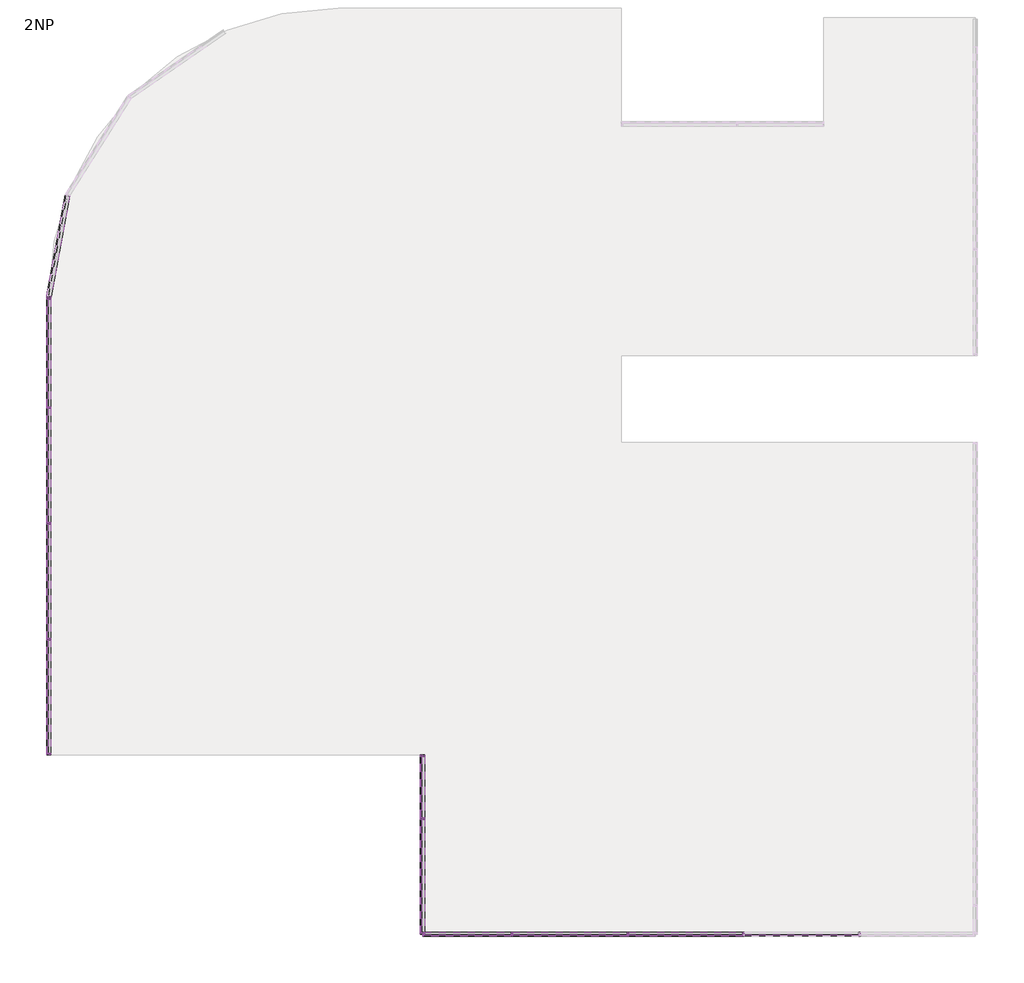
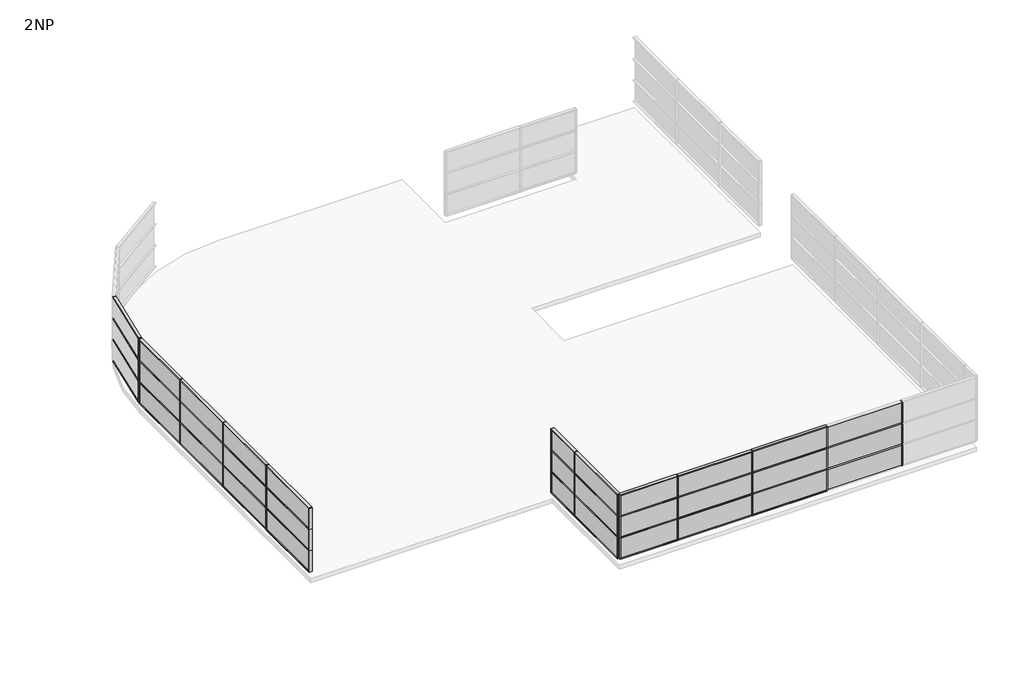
# One storey, part 1 of 3: 82 members, 30 plates.
"""IFC4 building model written with IfcOpenShell, lengths in millimetres."""

from ifc_helpers import new_model, si_unit, origin, place, context, project, spatial, transform, mapped, element, save
from components import rectangular_mullion_50_x_150mm_d99dc9be, rectangular_mullion_50_x_150mm_6588f46c, rectangular_mullion_50_x_150mm_a037c29c, rectangular_mullion_50_x_150mm_c2546fd4, rectangular_mullion_50_x_150mm_cd873b1a, rectangular_mullion_50_x_150mm_642c3999, rectangular_mullion_50_x_150mm_d9fe8572, rectangular_mullion_50_x_150mm_f56f8a9a, system_panel_glazed_8e9402eb, system_panel_glazed_89ac83a7, system_panel_glazed_2dc425e2, system_panel_glazed_da5fadb4, system_panel_glazed_3a708ec0

model = new_model("IFC4")

# Units and contexts
model_context = context("Model", 3, world=origin())
ifc_project = project(units=[si_unit("LENGTHUNIT", "METRE", prefix="MILLI")], contexts=[model_context])

# Site, building, storey
site = spatial("IfcSite", under=ifc_project)
building = spatial("IfcBuilding", under=site)
storey = spatial("IfcBuildingStorey", under=building, Name="2NP", Elevation=8000.0)

# Members
placement = place(None, origin())
rectangular_mullion_50_x_150mm_shape = rectangular_mullion_50_x_150mm_d99dc9be(model_context)
element("IfcMember", 1, ObjectType="Rectangular Mullion : 50 x 150mm", at=placement, inside=storey, context=model_context, shape_type="MappedRepresentation", body=[
    mapped(rectangular_mullion_50_x_150mm_shape, transform((9503.2660975, -23624.0160434, 9600.0), x_axis=(-1.0, 0.0, 0.0), y_axis=(0.0, -1.0, 0.0), z_axis=(0.0, 0.0, 1.0))),
])
element("IfcMember", 2, ObjectType="Rectangular Mullion : 50 x 150mm", at=placement, inside=storey, context=model_context, shape_type="MappedRepresentation", body=[
    mapped(rectangular_mullion_50_x_150mm_shape, transform((9503.2660975, -23624.0160434, 10800.0), x_axis=(-1.0, 0.0, 0.0), y_axis=(0.0, -1.0, 0.0), z_axis=(0.0, 0.0, 1.0))),
])
element("IfcMember", 3, ObjectType="Rectangular Mullion : 50 x 150mm", at=placement, inside=storey, context=model_context, shape_type="MappedRepresentation", body=[
    mapped(rectangular_mullion_50_x_150mm_shape, transform((9503.2660975, -23624.0160434, 12000.0), x_axis=(-1.0, 0.0, 0.0), y_axis=(0.0, -1.0, 0.0), z_axis=(0.0, 0.0, 1.0))),
])
element("IfcMember", 4, ObjectType="Rectangular Mullion : 50 x 150mm", at=placement, inside=storey, context=model_context, shape_type="MappedRepresentation", body=[
    mapped(rectangular_mullion_50_x_150mm_shape, transform((5503.2660975, -23624.0160434, 9600.0), x_axis=(-1.0, 0.0, 0.0), y_axis=(0.0, -1.0, 0.0), z_axis=(0.0, 0.0, 1.0))),
])
element("IfcMember", 5, ObjectType="Rectangular Mullion : 50 x 150mm", at=placement, inside=storey, context=model_context, shape_type="MappedRepresentation", body=[
    mapped(rectangular_mullion_50_x_150mm_shape, transform((5503.2660975, -23624.0160434, 10800.0), x_axis=(-1.0, 0.0, 0.0), y_axis=(0.0, -1.0, 0.0), z_axis=(0.0, 0.0, 1.0))),
])
element("IfcMember", 6, ObjectType="Rectangular Mullion : 50 x 150mm", at=placement, inside=storey, context=model_context, shape_type="MappedRepresentation", body=[
    mapped(rectangular_mullion_50_x_150mm_shape, transform((5503.2660975, -23624.0160434, 12000.0), x_axis=(-1.0, 0.0, 0.0), y_axis=(0.0, -1.0, 0.0), z_axis=(0.0, 0.0, 1.0))),
])
element("IfcMember", 7, ObjectType="Rectangular Mullion : 50 x 150mm", at=placement, inside=storey, context=model_context, shape_type="MappedRepresentation", body=[
    mapped(rectangular_mullion_50_x_150mm_shape, transform((1503.2660975, -23624.0160434, 9600.0), x_axis=(-1.0, 0.0, 0.0), y_axis=(0.0, -1.0, 0.0), z_axis=(0.0, 0.0, 1.0))),
])
element("IfcMember", 8, ObjectType="Rectangular Mullion : 50 x 150mm", at=placement, inside=storey, context=model_context, shape_type="MappedRepresentation", body=[
    mapped(rectangular_mullion_50_x_150mm_shape, transform((1503.2660975, -23624.0160434, 10800.0), x_axis=(-1.0, 0.0, 0.0), y_axis=(0.0, -1.0, 0.0), z_axis=(0.0, 0.0, 1.0))),
])
element("IfcMember", 9, ObjectType="Rectangular Mullion : 50 x 150mm", at=placement, inside=storey, context=model_context, shape_type="MappedRepresentation", body=[
    mapped(rectangular_mullion_50_x_150mm_shape, transform((1503.2660975, -23624.0160434, 12000.0), x_axis=(-1.0, 0.0, 0.0), y_axis=(0.0, -1.0, 0.0), z_axis=(0.0, 0.0, 1.0))),
])
element("IfcMember", 10, ObjectType="Rectangular Mullion : 50 x 150mm", at=placement, inside=storey, context=model_context, shape_type="MappedRepresentation", body=[
    mapped(rectangular_mullion_50_x_150mm_shape, transform((-2496.7339025, -23624.0160434, 9600.0), x_axis=(-1.0, 0.0, 0.0), y_axis=(0.0, -1.0, 0.0), z_axis=(0.0, 0.0, 1.0))),
])
element("IfcMember", 11, ObjectType="Rectangular Mullion : 50 x 150mm", at=placement, inside=storey, context=model_context, shape_type="MappedRepresentation", body=[
    mapped(rectangular_mullion_50_x_150mm_shape, transform((-2496.7339025, -23624.0160434, 10800.0), x_axis=(-1.0, 0.0, 0.0), y_axis=(0.0, -1.0, 0.0), z_axis=(0.0, 0.0, 1.0))),
])
element("IfcMember", 12, ObjectType="Rectangular Mullion : 50 x 150mm", at=placement, inside=storey, context=model_context, shape_type="MappedRepresentation", body=[
    mapped(rectangular_mullion_50_x_150mm_shape, transform((-2496.7339025, -23624.0160434, 12000.0), x_axis=(-1.0, 0.0, 0.0), y_axis=(0.0, -1.0, 0.0), z_axis=(0.0, 0.0, 1.0))),
])
element("IfcMember", 13, ObjectType="Rectangular Mullion : 50 x 150mm", at=placement, inside=storey, context=model_context, shape_type="MappedRepresentation", body=[
    mapped(rectangular_mullion_50_x_150mm_shape, transform((-5587.173406, -19624.0160434, 9600.0), x_axis=(0.0, 1.0, 0.0), y_axis=(-1.0, 0.0, 0.0), z_axis=(0.0, 0.0, 1.0))),
])
element("IfcMember", 14, ObjectType="Rectangular Mullion : 50 x 150mm", at=placement, inside=storey, context=model_context, shape_type="MappedRepresentation", body=[
    mapped(rectangular_mullion_50_x_150mm_shape, transform((-5587.173406, -19624.0160434, 10800.0), x_axis=(0.0, 1.0, 0.0), y_axis=(-1.0, 0.0, 0.0), z_axis=(0.0, 0.0, 1.0))),
])
element("IfcMember", 15, ObjectType="Rectangular Mullion : 50 x 150mm", at=placement, inside=storey, context=model_context, shape_type="MappedRepresentation", body=[
    mapped(rectangular_mullion_50_x_150mm_shape, transform((-5587.173406, -19624.0160434, 12000.0), x_axis=(0.0, 1.0, 0.0), y_axis=(-1.0, 0.0, 0.0), z_axis=(0.0, 0.0, 1.0))),
])
element("IfcMember", 16, ObjectType="Rectangular Mullion : 50 x 150mm", at=placement, inside=storey, context=model_context, shape_type="MappedRepresentation", body=[
    mapped(rectangular_mullion_50_x_150mm_shape, transform((-18496.7339025, -13423.5291324, 9600.0), x_axis=(0.0, 1.0, 0.0), y_axis=(-1.0, 0.0, 0.0), z_axis=(0.0, 0.0, 1.0))),
])
element("IfcMember", 17, ObjectType="Rectangular Mullion : 50 x 150mm", at=placement, inside=storey, context=model_context, shape_type="MappedRepresentation", body=[
    mapped(rectangular_mullion_50_x_150mm_shape, transform((-18496.7339025, -13423.5291324, 10800.0), x_axis=(0.0, 1.0, 0.0), y_axis=(-1.0, 0.0, 0.0), z_axis=(0.0, 0.0, 1.0))),
])
element("IfcMember", 18, ObjectType="Rectangular Mullion : 50 x 150mm", at=placement, inside=storey, context=model_context, shape_type="MappedRepresentation", body=[
    mapped(rectangular_mullion_50_x_150mm_shape, transform((-18496.7339025, -13423.5291324, 12000.0), x_axis=(0.0, 1.0, 0.0), y_axis=(-1.0, 0.0, 0.0), z_axis=(0.0, 0.0, 1.0))),
])
element("IfcMember", 19, ObjectType="Rectangular Mullion : 50 x 150mm", at=placement, inside=storey, context=model_context, shape_type="MappedRepresentation", body=[
    mapped(rectangular_mullion_50_x_150mm_shape, transform((-18496.7339025, -9423.5291324, 9600.0), x_axis=(0.0, 1.0, 0.0), y_axis=(-1.0, 0.0, 0.0), z_axis=(0.0, 0.0, 1.0))),
])
element("IfcMember", 20, ObjectType="Rectangular Mullion : 50 x 150mm", at=placement, inside=storey, context=model_context, shape_type="MappedRepresentation", body=[
    mapped(rectangular_mullion_50_x_150mm_shape, transform((-18496.7339025, -9423.5291324, 10800.0), x_axis=(0.0, 1.0, 0.0), y_axis=(-1.0, 0.0, 0.0), z_axis=(0.0, 0.0, 1.0))),
])
element("IfcMember", 21, ObjectType="Rectangular Mullion : 50 x 150mm", at=placement, inside=storey, context=model_context, shape_type="MappedRepresentation", body=[
    mapped(rectangular_mullion_50_x_150mm_shape, transform((-18496.7339025, -9423.5291324, 12000.0), x_axis=(0.0, 1.0, 0.0), y_axis=(-1.0, 0.0, 0.0), z_axis=(0.0, 0.0, 1.0))),
])
element("IfcMember", 22, ObjectType="Rectangular Mullion : 50 x 150mm", at=placement, inside=storey, context=model_context, shape_type="MappedRepresentation", body=[
    mapped(rectangular_mullion_50_x_150mm_shape, transform((-18496.7339025, -5423.5291324, 9600.0), x_axis=(0.0, 1.0, 0.0), y_axis=(-1.0, 0.0, 0.0), z_axis=(0.0, 0.0, 1.0))),
])
element("IfcMember", 23, ObjectType="Rectangular Mullion : 50 x 150mm", at=placement, inside=storey, context=model_context, shape_type="MappedRepresentation", body=[
    mapped(rectangular_mullion_50_x_150mm_shape, transform((-18496.7339025, -5423.5291324, 10800.0), x_axis=(0.0, 1.0, 0.0), y_axis=(-1.0, 0.0, 0.0), z_axis=(0.0, 0.0, 1.0))),
])
element("IfcMember", 24, ObjectType="Rectangular Mullion : 50 x 150mm", at=placement, inside=storey, context=model_context, shape_type="MappedRepresentation", body=[
    mapped(rectangular_mullion_50_x_150mm_shape, transform((-18496.7339025, -5423.5291324, 12000.0), x_axis=(0.0, 1.0, 0.0), y_axis=(-1.0, 0.0, 0.0), z_axis=(0.0, 0.0, 1.0))),
])
rectangular_mullion_50_x_150mm_2_shape = rectangular_mullion_50_x_150mm_6588f46c(model_context)
element("IfcMember", 25, ObjectType="Rectangular Mullion : 50 x 150mm", at=placement, inside=storey, context=model_context, shape_type="MappedRepresentation", body=[
    mapped(rectangular_mullion_50_x_150mm_2_shape, transform((-5587.173406, -23624.0160434, 9600.0), x_axis=(-1.0, 0.0, 0.0), y_axis=(0.0, -1.0, 0.0), z_axis=(0.0, 0.0, 1.0))),
])
element("IfcMember", 26, ObjectType="Rectangular Mullion : 50 x 150mm", at=placement, inside=storey, context=model_context, shape_type="MappedRepresentation", body=[
    mapped(rectangular_mullion_50_x_150mm_2_shape, transform((-5587.173406, -23624.0160434, 10800.0), x_axis=(-1.0, 0.0, 0.0), y_axis=(0.0, -1.0, 0.0), z_axis=(0.0, 0.0, 1.0))),
])
element("IfcMember", 27, ObjectType="Rectangular Mullion : 50 x 150mm", at=placement, inside=storey, context=model_context, shape_type="MappedRepresentation", body=[
    mapped(rectangular_mullion_50_x_150mm_2_shape, transform((-5587.173406, -23624.0160434, 12000.0), x_axis=(-1.0, 0.0, 0.0), y_axis=(0.0, -1.0, 0.0), z_axis=(0.0, 0.0, 1.0))),
])
element("IfcMember", 28, ObjectType="Rectangular Mullion : 50 x 150mm", at=placement, inside=storey, context=model_context, shape_type="MappedRepresentation", body=[
    mapped(rectangular_mullion_50_x_150mm_2_shape, transform((-5587.173406, -17423.5291324, 9600.0), x_axis=(0.0, 1.0, 0.0), y_axis=(-1.0, 0.0, 0.0), z_axis=(0.0, 0.0, 1.0))),
])
element("IfcMember", 29, ObjectType="Rectangular Mullion : 50 x 150mm", at=placement, inside=storey, context=model_context, shape_type="MappedRepresentation", body=[
    mapped(rectangular_mullion_50_x_150mm_2_shape, transform((-5587.173406, -17423.5291324, 10800.0), x_axis=(0.0, 1.0, 0.0), y_axis=(-1.0, 0.0, 0.0), z_axis=(0.0, 0.0, 1.0))),
])
element("IfcMember", 30, ObjectType="Rectangular Mullion : 50 x 150mm", at=placement, inside=storey, context=model_context, shape_type="MappedRepresentation", body=[
    mapped(rectangular_mullion_50_x_150mm_2_shape, transform((-5587.173406, -17423.5291324, 12000.0), x_axis=(0.0, 1.0, 0.0), y_axis=(-1.0, 0.0, 0.0), z_axis=(0.0, 0.0, 1.0))),
])
element("IfcMember", 31, ObjectType="Rectangular Mullion : 50 x 150mm", at=placement, inside=storey, context=model_context, shape_type="MappedRepresentation", body=[
    mapped(rectangular_mullion_50_x_150mm_2_shape, transform((-18496.7339025, -1624.0160434, 9600.0), x_axis=(0.0, 1.0, 0.0), y_axis=(-1.0, 0.0, 0.0), z_axis=(0.0, 0.0, 1.0))),
])
element("IfcMember", 32, ObjectType="Rectangular Mullion : 50 x 150mm", at=placement, inside=storey, context=model_context, shape_type="MappedRepresentation", body=[
    mapped(rectangular_mullion_50_x_150mm_2_shape, transform((-18496.7339025, -1624.0160434, 10800.0), x_axis=(0.0, 1.0, 0.0), y_axis=(-1.0, 0.0, 0.0), z_axis=(0.0, 0.0, 1.0))),
])
element("IfcMember", 33, ObjectType="Rectangular Mullion : 50 x 150mm", at=placement, inside=storey, context=model_context, shape_type="MappedRepresentation", body=[
    mapped(rectangular_mullion_50_x_150mm_2_shape, transform((-18496.7339025, -1624.0160434, 12000.0), x_axis=(0.0, 1.0, 0.0), y_axis=(-1.0, 0.0, 0.0), z_axis=(0.0, 0.0, 1.0))),
])
rectangular_mullion_50_x_150mm_3_shape = rectangular_mullion_50_x_150mm_a037c29c(model_context)
element("IfcMember", 34, ObjectType="Rectangular Mullion : 50 x 150mm", at=placement, inside=storey, context=model_context, shape_type="MappedRepresentation", body=[
    mapped(rectangular_mullion_50_x_150mm_3_shape, transform((5478.2660975, -23624.0160434, 8400.0), x_axis=(0.0, 0.0, 1.0), y_axis=(0.0, -1.0, 0.0), z_axis=(1.0, 0.0, 0.0))),
])
element("IfcMember", 35, ObjectType="Rectangular Mullion : 50 x 150mm", at=placement, inside=storey, context=model_context, shape_type="MappedRepresentation", body=[
    mapped(rectangular_mullion_50_x_150mm_3_shape, transform((1478.2660975, -23624.0160434, 8400.0), x_axis=(0.0, 0.0, 1.0), y_axis=(0.0, -1.0, 0.0), z_axis=(1.0, 0.0, 0.0))),
])
element("IfcMember", 36, ObjectType="Rectangular Mullion : 50 x 150mm", at=placement, inside=storey, context=model_context, shape_type="MappedRepresentation", body=[
    mapped(rectangular_mullion_50_x_150mm_3_shape, transform((5478.2660975, -23624.0160434, 9600.0), x_axis=(0.0, 0.0, 1.0), y_axis=(0.0, -1.0, 0.0), z_axis=(1.0, 0.0, 0.0))),
])
element("IfcMember", 37, ObjectType="Rectangular Mullion : 50 x 150mm", at=placement, inside=storey, context=model_context, shape_type="MappedRepresentation", body=[
    mapped(rectangular_mullion_50_x_150mm_3_shape, transform((1478.2660975, -23624.0160434, 9600.0), x_axis=(0.0, 0.0, 1.0), y_axis=(0.0, -1.0, 0.0), z_axis=(1.0, 0.0, 0.0))),
])
element("IfcMember", 38, ObjectType="Rectangular Mullion : 50 x 150mm", at=placement, inside=storey, context=model_context, shape_type="MappedRepresentation", body=[
    mapped(rectangular_mullion_50_x_150mm_3_shape, transform((5478.2660975, -23624.0160434, 10800.0), x_axis=(0.0, 0.0, 1.0), y_axis=(0.0, -1.0, 0.0), z_axis=(1.0, 0.0, 0.0))),
])
element("IfcMember", 39, ObjectType="Rectangular Mullion : 50 x 150mm", at=placement, inside=storey, context=model_context, shape_type="MappedRepresentation", body=[
    mapped(rectangular_mullion_50_x_150mm_3_shape, transform((1478.2660975, -23624.0160434, 10800.0), x_axis=(0.0, 0.0, 1.0), y_axis=(0.0, -1.0, 0.0), z_axis=(1.0, 0.0, 0.0))),
])
element("IfcMember", 40, ObjectType="Rectangular Mullion : 50 x 150mm", at=placement, inside=storey, context=model_context, shape_type="MappedRepresentation", body=[
    mapped(rectangular_mullion_50_x_150mm_3_shape, transform((5478.2660975, -23624.0160434, 12000.0), x_axis=(0.0, 0.0, 1.0), y_axis=(0.0, -1.0, 0.0), z_axis=(1.0, 0.0, 0.0))),
])
element("IfcMember", 41, ObjectType="Rectangular Mullion : 50 x 150mm", at=placement, inside=storey, context=model_context, shape_type="MappedRepresentation", body=[
    mapped(rectangular_mullion_50_x_150mm_3_shape, transform((1478.2660975, -23624.0160434, 12000.0), x_axis=(0.0, 0.0, 1.0), y_axis=(0.0, -1.0, 0.0), z_axis=(1.0, 0.0, 0.0))),
])
element("IfcMember", 42, ObjectType="Rectangular Mullion : 50 x 150mm", at=placement, inside=storey, context=model_context, shape_type="MappedRepresentation", body=[
    mapped(rectangular_mullion_50_x_150mm_3_shape, transform((-18496.7339025, -13398.5291324, 8400.0), x_axis=(0.0, 0.0, 1.0), y_axis=(-1.0, 0.0, 0.0), z_axis=(0.0, -1.0, 0.0))),
])
element("IfcMember", 43, ObjectType="Rectangular Mullion : 50 x 150mm", at=placement, inside=storey, context=model_context, shape_type="MappedRepresentation", body=[
    mapped(rectangular_mullion_50_x_150mm_3_shape, transform((-18496.7339025, -9398.5291324, 8400.0), x_axis=(0.0, 0.0, 1.0), y_axis=(-1.0, 0.0, 0.0), z_axis=(0.0, -1.0, 0.0))),
])
element("IfcMember", 44, ObjectType="Rectangular Mullion : 50 x 150mm", at=placement, inside=storey, context=model_context, shape_type="MappedRepresentation", body=[
    mapped(rectangular_mullion_50_x_150mm_3_shape, transform((-18496.7339025, -13398.5291324, 9600.0), x_axis=(0.0, 0.0, 1.0), y_axis=(-1.0, 0.0, 0.0), z_axis=(0.0, -1.0, 0.0))),
])
element("IfcMember", 45, ObjectType="Rectangular Mullion : 50 x 150mm", at=placement, inside=storey, context=model_context, shape_type="MappedRepresentation", body=[
    mapped(rectangular_mullion_50_x_150mm_3_shape, transform((-18496.7339025, -9398.5291324, 9600.0), x_axis=(0.0, 0.0, 1.0), y_axis=(-1.0, 0.0, 0.0), z_axis=(0.0, -1.0, 0.0))),
])
element("IfcMember", 46, ObjectType="Rectangular Mullion : 50 x 150mm", at=placement, inside=storey, context=model_context, shape_type="MappedRepresentation", body=[
    mapped(rectangular_mullion_50_x_150mm_3_shape, transform((-18496.7339025, -13398.5291324, 10800.0), x_axis=(0.0, 0.0, 1.0), y_axis=(-1.0, 0.0, 0.0), z_axis=(0.0, -1.0, 0.0))),
])
element("IfcMember", 47, ObjectType="Rectangular Mullion : 50 x 150mm", at=placement, inside=storey, context=model_context, shape_type="MappedRepresentation", body=[
    mapped(rectangular_mullion_50_x_150mm_3_shape, transform((-18496.7339025, -9398.5291324, 10800.0), x_axis=(0.0, 0.0, 1.0), y_axis=(-1.0, 0.0, 0.0), z_axis=(0.0, -1.0, 0.0))),
])
element("IfcMember", 48, ObjectType="Rectangular Mullion : 50 x 150mm", at=placement, inside=storey, context=model_context, shape_type="MappedRepresentation", body=[
    mapped(rectangular_mullion_50_x_150mm_3_shape, transform((-18496.7339025, -13398.5291324, 12000.0), x_axis=(0.0, 0.0, 1.0), y_axis=(-1.0, 0.0, 0.0), z_axis=(0.0, -1.0, 0.0))),
])
element("IfcMember", 49, ObjectType="Rectangular Mullion : 50 x 150mm", at=placement, inside=storey, context=model_context, shape_type="MappedRepresentation", body=[
    mapped(rectangular_mullion_50_x_150mm_3_shape, transform((-18496.7339025, -9398.5291324, 12000.0), x_axis=(0.0, 0.0, 1.0), y_axis=(-1.0, 0.0, 0.0), z_axis=(0.0, -1.0, 0.0))),
])
rectangular_mullion_50_x_150mm_4_shape = rectangular_mullion_50_x_150mm_c2546fd4(model_context)
element("IfcMember", 50, ObjectType="Rectangular Mullion : 50 x 150mm", at=placement, inside=storey, context=model_context, shape_type="MappedRepresentation", body=[
    mapped(rectangular_mullion_50_x_150mm_4_shape, transform((-5587.173406, -23574.0160434, 8400.0), x_axis=(0.0, 0.0, 1.0), y_axis=(-1.0, 0.0, 0.0), z_axis=(0.0, -1.0, 0.0))),
])
element("IfcMember", 51, ObjectType="Rectangular Mullion : 50 x 150mm", at=placement, inside=storey, context=model_context, shape_type="MappedRepresentation", body=[
    mapped(rectangular_mullion_50_x_150mm_4_shape, transform((-5587.173406, -23574.0160434, 9600.0), x_axis=(0.0, 0.0, 1.0), y_axis=(-1.0, 0.0, 0.0), z_axis=(0.0, -1.0, 0.0))),
])
element("IfcMember", 52, ObjectType="Rectangular Mullion : 50 x 150mm", at=placement, inside=storey, context=model_context, shape_type="MappedRepresentation", body=[
    mapped(rectangular_mullion_50_x_150mm_4_shape, transform((-5587.173406, -23574.0160434, 10800.0), x_axis=(0.0, 0.0, 1.0), y_axis=(-1.0, 0.0, 0.0), z_axis=(0.0, -1.0, 0.0))),
])
element("IfcMember", 53, ObjectType="Rectangular Mullion : 50 x 150mm", at=placement, inside=storey, context=model_context, shape_type="MappedRepresentation", body=[
    mapped(rectangular_mullion_50_x_150mm_4_shape, transform((-5587.173406, -23574.0160434, 12000.0), x_axis=(0.0, 0.0, 1.0), y_axis=(-1.0, 0.0, 0.0), z_axis=(0.0, -1.0, 0.0))),
])
element("IfcMember", 54, ObjectType="Rectangular Mullion : 50 x 150mm", at=placement, inside=storey, context=model_context, shape_type="MappedRepresentation", body=[
    mapped(rectangular_mullion_50_x_150mm_4_shape, transform((-18496.7339025, -17373.5291324, 8400.0), x_axis=(0.0, 0.0, 1.0), y_axis=(-1.0, 0.0, 0.0), z_axis=(0.0, -1.0, 0.0))),
])
element("IfcMember", 55, ObjectType="Rectangular Mullion : 50 x 150mm", at=placement, inside=storey, context=model_context, shape_type="MappedRepresentation", body=[
    mapped(rectangular_mullion_50_x_150mm_4_shape, transform((-18496.7339025, -17373.5291324, 9600.0), x_axis=(0.0, 0.0, 1.0), y_axis=(-1.0, 0.0, 0.0), z_axis=(0.0, -1.0, 0.0))),
])
element("IfcMember", 56, ObjectType="Rectangular Mullion : 50 x 150mm", at=placement, inside=storey, context=model_context, shape_type="MappedRepresentation", body=[
    mapped(rectangular_mullion_50_x_150mm_4_shape, transform((-18496.7339025, -17373.5291324, 10800.0), x_axis=(0.0, 0.0, 1.0), y_axis=(-1.0, 0.0, 0.0), z_axis=(0.0, -1.0, 0.0))),
])
element("IfcMember", 57, ObjectType="Rectangular Mullion : 50 x 150mm", at=placement, inside=storey, context=model_context, shape_type="MappedRepresentation", body=[
    mapped(rectangular_mullion_50_x_150mm_4_shape, transform((-18496.7339025, -17373.5291324, 12000.0), x_axis=(0.0, 0.0, 1.0), y_axis=(-1.0, 0.0, 0.0), z_axis=(0.0, -1.0, 0.0))),
])
element("IfcMember", 58, ObjectType="Rectangular Mullion : 50 x 150mm", at=placement, inside=storey, context=model_context, shape_type="MappedRepresentation", body=[
    mapped(rectangular_mullion_50_x_150mm_2_shape, transform((-5587.173406, -23624.0160434, 8400.0), x_axis=(0.0, -1.0, 0.0), y_axis=(-1.0, 0.0, 0.0), z_axis=(0.0, 0.0, -1.0))),
])
element("IfcMember", 59, ObjectType="Rectangular Mullion : 50 x 150mm", at=placement, inside=storey, context=model_context, shape_type="MappedRepresentation", body=[
    mapped(rectangular_mullion_50_x_150mm_2_shape, transform((-5587.173406, -23624.0160434, 9600.0), x_axis=(0.0, -1.0, 0.0), y_axis=(-1.0, 0.0, 0.0), z_axis=(0.0, 0.0, -1.0))),
])
element("IfcMember", 60, ObjectType="Rectangular Mullion : 50 x 150mm", at=placement, inside=storey, context=model_context, shape_type="MappedRepresentation", body=[
    mapped(rectangular_mullion_50_x_150mm_2_shape, transform((-5587.173406, -23624.0160434, 10800.0), x_axis=(0.0, -1.0, 0.0), y_axis=(-1.0, 0.0, 0.0), z_axis=(0.0, 0.0, -1.0))),
])
element("IfcMember", 61, ObjectType="Rectangular Mullion : 50 x 150mm", at=placement, inside=storey, context=model_context, shape_type="MappedRepresentation", body=[
    mapped(rectangular_mullion_50_x_150mm_2_shape, transform((-18496.7339025, -1624.0160434, 8400.0), x_axis=(-0.18033241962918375, -0.9836057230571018, 0.0), y_axis=(-0.9836057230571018, 0.18033241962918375, 0.0), z_axis=(0.0, 0.0, -1.0))),
])
element("IfcMember", 62, ObjectType="Rectangular Mullion : 50 x 150mm", at=placement, inside=storey, context=model_context, shape_type="MappedRepresentation", body=[
    mapped(rectangular_mullion_50_x_150mm_2_shape, transform((-18496.7339025, -1624.0160434, 9600.0), x_axis=(-0.18033241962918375, -0.9836057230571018, 0.0), y_axis=(-0.9836057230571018, 0.18033241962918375, 0.0), z_axis=(0.0, 0.0, -1.0))),
])
element("IfcMember", 63, ObjectType="Rectangular Mullion : 50 x 150mm", at=placement, inside=storey, context=model_context, shape_type="MappedRepresentation", body=[
    mapped(rectangular_mullion_50_x_150mm_2_shape, transform((-18496.7339025, -1624.0160434, 10800.0), x_axis=(-0.18033241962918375, -0.9836057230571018, 0.0), y_axis=(-0.9836057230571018, 0.18033241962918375, 0.0), z_axis=(0.0, 0.0, -1.0))),
])
element("IfcMember", 64, ObjectType="Rectangular Mullion : 50 x 150mm", at=placement, inside=storey, context=model_context, shape_type="MappedRepresentation", body=[
    mapped(rectangular_mullion_50_x_150mm_2_shape, transform((-18496.7339025, -17423.5291324, 8400.0), x_axis=(0.0, -1.0, 0.0), y_axis=(-1.0, 0.0, 0.0), z_axis=(0.0, 0.0, -1.0))),
])
element("IfcMember", 65, ObjectType="Rectangular Mullion : 50 x 150mm", at=placement, inside=storey, context=model_context, shape_type="MappedRepresentation", body=[
    mapped(rectangular_mullion_50_x_150mm_2_shape, transform((-18496.7339025, -17423.5291324, 9600.0), x_axis=(0.0, -1.0, 0.0), y_axis=(-1.0, 0.0, 0.0), z_axis=(0.0, 0.0, -1.0))),
])
element("IfcMember", 66, ObjectType="Rectangular Mullion : 50 x 150mm", at=placement, inside=storey, context=model_context, shape_type="MappedRepresentation", body=[
    mapped(rectangular_mullion_50_x_150mm_2_shape, transform((-18496.7339025, -17423.5291324, 10800.0), x_axis=(0.0, -1.0, 0.0), y_axis=(-1.0, 0.0, 0.0), z_axis=(0.0, 0.0, -1.0))),
])
rectangular_mullion_50_x_150mm_5_shape = rectangular_mullion_50_x_150mm_cd873b1a(model_context)
element("IfcMember", 67, ObjectType="Rectangular Mullion : 50 x 150mm", at=placement, inside=storey, context=model_context, shape_type="MappedRepresentation", body=[
    mapped(rectangular_mullion_50_x_150mm_5_shape, transform((-2521.7339025, -23624.0160434, 8400.0), x_axis=(0.0, 0.0, 1.0), y_axis=(0.0, -1.0, 0.0), z_axis=(1.0, 0.0, 0.0))),
])
element("IfcMember", 68, ObjectType="Rectangular Mullion : 50 x 150mm", at=placement, inside=storey, context=model_context, shape_type="MappedRepresentation", body=[
    mapped(rectangular_mullion_50_x_150mm_5_shape, transform((-2521.7339025, -23624.0160434, 9600.0), x_axis=(0.0, 0.0, 1.0), y_axis=(0.0, -1.0, 0.0), z_axis=(1.0, 0.0, 0.0))),
])
element("IfcMember", 69, ObjectType="Rectangular Mullion : 50 x 150mm", at=placement, inside=storey, context=model_context, shape_type="MappedRepresentation", body=[
    mapped(rectangular_mullion_50_x_150mm_5_shape, transform((-2521.7339025, -23624.0160434, 10800.0), x_axis=(0.0, 0.0, 1.0), y_axis=(0.0, -1.0, 0.0), z_axis=(1.0, 0.0, 0.0))),
])
element("IfcMember", 70, ObjectType="Rectangular Mullion : 50 x 150mm", at=placement, inside=storey, context=model_context, shape_type="MappedRepresentation", body=[
    mapped(rectangular_mullion_50_x_150mm_5_shape, transform((-2521.7339025, -23624.0160434, 12000.0), x_axis=(0.0, 0.0, 1.0), y_axis=(0.0, -1.0, 0.0), z_axis=(1.0, 0.0, 0.0))),
])
rectangular_mullion_50_x_150mm_6_shape = rectangular_mullion_50_x_150mm_642c3999(model_context)
element("IfcMember", 71, ObjectType="Rectangular Mullion : 50 x 150mm", at=placement, inside=storey, context=model_context, shape_type="MappedRepresentation", body=[
    mapped(rectangular_mullion_50_x_150mm_6_shape, transform((-5587.173406, -19599.0160434, 8400.0), x_axis=(0.0, 0.0, 1.0), y_axis=(-1.0, 0.0, 0.0), z_axis=(0.0, -1.0, 0.0))),
])
element("IfcMember", 72, ObjectType="Rectangular Mullion : 50 x 150mm", at=placement, inside=storey, context=model_context, shape_type="MappedRepresentation", body=[
    mapped(rectangular_mullion_50_x_150mm_6_shape, transform((-5587.173406, -19599.0160434, 9600.0), x_axis=(0.0, 0.0, 1.0), y_axis=(-1.0, 0.0, 0.0), z_axis=(0.0, -1.0, 0.0))),
])
element("IfcMember", 73, ObjectType="Rectangular Mullion : 50 x 150mm", at=placement, inside=storey, context=model_context, shape_type="MappedRepresentation", body=[
    mapped(rectangular_mullion_50_x_150mm_6_shape, transform((-5587.173406, -19599.0160434, 10800.0), x_axis=(0.0, 0.0, 1.0), y_axis=(-1.0, 0.0, 0.0), z_axis=(0.0, -1.0, 0.0))),
])
element("IfcMember", 74, ObjectType="Rectangular Mullion : 50 x 150mm", at=placement, inside=storey, context=model_context, shape_type="MappedRepresentation", body=[
    mapped(rectangular_mullion_50_x_150mm_6_shape, transform((-5587.173406, -19599.0160434, 12000.0), x_axis=(0.0, 0.0, 1.0), y_axis=(-1.0, 0.0, 0.0), z_axis=(0.0, -1.0, 0.0))),
])
rectangular_mullion_50_x_150mm_7_shape = rectangular_mullion_50_x_150mm_d9fe8572(model_context)
element("IfcMember", 75, ObjectType="Rectangular Mullion : 50 x 150mm", at=placement, inside=storey, context=model_context, shape_type="MappedRepresentation", body=[
    mapped(rectangular_mullion_50_x_150mm_7_shape, transform((-18487.7172815, -1574.8357573, 9600.0), x_axis=(0.0, 0.0, 1.0), y_axis=(-0.9836057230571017, 0.1803324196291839, 0.0), z_axis=(-0.1803324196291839, -0.9836057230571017, 0.0))),
])
element("IfcMember", 76, ObjectType="Rectangular Mullion : 50 x 150mm", at=placement, inside=storey, context=model_context, shape_type="MappedRepresentation", body=[
    mapped(rectangular_mullion_50_x_150mm_7_shape, transform((-18487.7172815, -1574.8357573, 10800.0), x_axis=(0.0, 0.0, 1.0), y_axis=(-0.9836057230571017, 0.18033241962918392, 0.0), z_axis=(-0.18033241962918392, -0.9836057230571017, 0.0))),
])
element("IfcMember", 77, ObjectType="Rectangular Mullion : 50 x 150mm", at=placement, inside=storey, context=model_context, shape_type="MappedRepresentation", body=[
    mapped(rectangular_mullion_50_x_150mm_7_shape, transform((-18487.7172815, -1574.8357573, 8400.0), x_axis=(0.0, 0.0, 1.0), y_axis=(-0.9836057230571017, 0.1803324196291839, 0.0), z_axis=(-0.1803324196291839, -0.9836057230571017, 0.0))),
])
element("IfcMember", 78, ObjectType="Rectangular Mullion : 50 x 150mm", at=placement, inside=storey, context=model_context, shape_type="MappedRepresentation", body=[
    mapped(rectangular_mullion_50_x_150mm_7_shape, transform((-18487.7172815, -1574.8357573, 12000.0), x_axis=(0.0, 0.0, 1.0), y_axis=(-0.9836057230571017, 0.18033241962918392, 0.0), z_axis=(-0.18033241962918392, -0.9836057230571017, 0.0))),
])
rectangular_mullion_50_x_150mm_8_shape = rectangular_mullion_50_x_150mm_f56f8a9a(model_context)
element("IfcMember", 79, ObjectType="Rectangular Mullion : 50 x 150mm", at=placement, inside=storey, context=model_context, shape_type="MappedRepresentation", body=[
    mapped(rectangular_mullion_50_x_150mm_8_shape, transform((-18496.7339025, -5398.5291324, 8400.0), x_axis=(0.0, 0.0, 1.0), y_axis=(-1.0, 0.0, 0.0), z_axis=(0.0, -1.0, 0.0))),
])
element("IfcMember", 80, ObjectType="Rectangular Mullion : 50 x 150mm", at=placement, inside=storey, context=model_context, shape_type="MappedRepresentation", body=[
    mapped(rectangular_mullion_50_x_150mm_8_shape, transform((-18496.7339025, -5398.5291324, 9600.0), x_axis=(0.0, 0.0, 1.0), y_axis=(-1.0, 0.0, 0.0), z_axis=(0.0, -1.0, 0.0))),
])
element("IfcMember", 81, ObjectType="Rectangular Mullion : 50 x 150mm", at=placement, inside=storey, context=model_context, shape_type="MappedRepresentation", body=[
    mapped(rectangular_mullion_50_x_150mm_8_shape, transform((-18496.7339025, -5398.5291324, 10800.0), x_axis=(0.0, 0.0, 1.0), y_axis=(-1.0, 0.0, 0.0), z_axis=(0.0, -1.0, 0.0))),
])
element("IfcMember", 82, ObjectType="Rectangular Mullion : 50 x 150mm", at=placement, inside=storey, context=model_context, shape_type="MappedRepresentation", body=[
    mapped(rectangular_mullion_50_x_150mm_8_shape, transform((-18496.7339025, -5398.5291324, 12000.0), x_axis=(0.0, 0.0, 1.0), y_axis=(-1.0, 0.0, 0.0), z_axis=(0.0, -1.0, 0.0))),
])

# Plates
system_panel_glazed_shape = system_panel_glazed_8e9402eb(model_context)
element("IfcPlate", 83, ObjectType="System Panel : Glazed", at=placement, inside=storey, context=model_context, shape_type="MappedRepresentation", body=[
    mapped(system_panel_glazed_shape, transform((-5587.173406, -21611.5160434, 8425.0), x_axis=(0.0, 1.0, 0.0), y_axis=(-1.0, 0.0, 0.0), z_axis=(0.0, 0.0, 1.0))),
])
element("IfcPlate", 84, ObjectType="System Panel : Glazed", at=placement, inside=storey, context=model_context, shape_type="MappedRepresentation", body=[
    mapped(system_panel_glazed_shape, transform((-5587.173406, -21611.5160434, 9625.0), x_axis=(0.0, 1.0, 0.0), y_axis=(-1.0, 0.0, 0.0), z_axis=(0.0, 0.0, 1.0))),
])
element("IfcPlate", 85, ObjectType="System Panel : Glazed", at=placement, inside=storey, context=model_context, shape_type="MappedRepresentation", body=[
    mapped(system_panel_glazed_shape, transform((-5587.173406, -21611.5160434, 10825.0), x_axis=(0.0, 1.0, 0.0), y_axis=(-1.0, 0.0, 0.0), z_axis=(0.0, 0.0, 1.0))),
])
element("IfcPlate", 86, ObjectType="System Panel : Glazed", at=placement, inside=storey, context=model_context, shape_type="MappedRepresentation", body=[
    mapped(system_panel_glazed_shape, transform((-18496.7339025, -15411.0291324, 8425.0), x_axis=(0.0, 1.0, 0.0), y_axis=(-1.0, 0.0, 0.0), z_axis=(0.0, 0.0, 1.0))),
])
element("IfcPlate", 87, ObjectType="System Panel : Glazed", at=placement, inside=storey, context=model_context, shape_type="MappedRepresentation", body=[
    mapped(system_panel_glazed_shape, transform((-18496.7339025, -15411.0291324, 9625.0), x_axis=(0.0, 1.0, 0.0), y_axis=(-1.0, 0.0, 0.0), z_axis=(0.0, 0.0, 1.0))),
])
element("IfcPlate", 88, ObjectType="System Panel : Glazed", at=placement, inside=storey, context=model_context, shape_type="MappedRepresentation", body=[
    mapped(system_panel_glazed_shape, transform((-18496.7339025, -15411.0291324, 10825.0), x_axis=(0.0, 1.0, 0.0), y_axis=(-1.0, 0.0, 0.0), z_axis=(0.0, 0.0, 1.0))),
])
system_panel_glazed_2_shape = system_panel_glazed_89ac83a7(model_context)
element("IfcPlate", 89, ObjectType="System Panel : Glazed", at=placement, inside=storey, context=model_context, shape_type="MappedRepresentation", body=[
    mapped(system_panel_glazed_2_shape, transform((7503.2660975, -23624.0160434, 8425.0), x_axis=(-1.0, 0.0, 0.0), y_axis=(0.0, -1.0, 0.0), z_axis=(0.0, 0.0, 1.0))),
])
element("IfcPlate", 90, ObjectType="System Panel : Glazed", at=placement, inside=storey, context=model_context, shape_type="MappedRepresentation", body=[
    mapped(system_panel_glazed_2_shape, transform((3503.2660975, -23624.0160434, 8425.0), x_axis=(-1.0, 0.0, 0.0), y_axis=(0.0, -1.0, 0.0), z_axis=(0.0, 0.0, 1.0))),
])
element("IfcPlate", 91, ObjectType="System Panel : Glazed", at=placement, inside=storey, context=model_context, shape_type="MappedRepresentation", body=[
    mapped(system_panel_glazed_2_shape, transform((-496.7339025, -23624.0160434, 8425.0), x_axis=(-1.0, 0.0, 0.0), y_axis=(0.0, -1.0, 0.0), z_axis=(0.0, 0.0, 1.0))),
])
element("IfcPlate", 92, ObjectType="System Panel : Glazed", at=placement, inside=storey, context=model_context, shape_type="MappedRepresentation", body=[
    mapped(system_panel_glazed_2_shape, transform((7503.2660975, -23624.0160434, 9625.0), x_axis=(-1.0, 0.0, 0.0), y_axis=(0.0, -1.0, 0.0), z_axis=(0.0, 0.0, 1.0))),
])
element("IfcPlate", 93, ObjectType="System Panel : Glazed", at=placement, inside=storey, context=model_context, shape_type="MappedRepresentation", body=[
    mapped(system_panel_glazed_2_shape, transform((3503.2660975, -23624.0160434, 9625.0), x_axis=(-1.0, 0.0, 0.0), y_axis=(0.0, -1.0, 0.0), z_axis=(0.0, 0.0, 1.0))),
])
element("IfcPlate", 94, ObjectType="System Panel : Glazed", at=placement, inside=storey, context=model_context, shape_type="MappedRepresentation", body=[
    mapped(system_panel_glazed_2_shape, transform((-496.7339025, -23624.0160434, 9625.0), x_axis=(-1.0, 0.0, 0.0), y_axis=(0.0, -1.0, 0.0), z_axis=(0.0, 0.0, 1.0))),
])
element("IfcPlate", 95, ObjectType="System Panel : Glazed", at=placement, inside=storey, context=model_context, shape_type="MappedRepresentation", body=[
    mapped(system_panel_glazed_2_shape, transform((7503.2660975, -23624.0160434, 10825.0), x_axis=(-1.0, 0.0, 0.0), y_axis=(0.0, -1.0, 0.0), z_axis=(0.0, 0.0, 1.0))),
])
element("IfcPlate", 96, ObjectType="System Panel : Glazed", at=placement, inside=storey, context=model_context, shape_type="MappedRepresentation", body=[
    mapped(system_panel_glazed_2_shape, transform((3503.2660975, -23624.0160434, 10825.0), x_axis=(-1.0, 0.0, 0.0), y_axis=(0.0, -1.0, 0.0), z_axis=(0.0, 0.0, 1.0))),
])
element("IfcPlate", 97, ObjectType="System Panel : Glazed", at=placement, inside=storey, context=model_context, shape_type="MappedRepresentation", body=[
    mapped(system_panel_glazed_2_shape, transform((-496.7339025, -23624.0160434, 10825.0), x_axis=(-1.0, 0.0, 0.0), y_axis=(0.0, -1.0, 0.0), z_axis=(0.0, 0.0, 1.0))),
])
element("IfcPlate", 98, ObjectType="System Panel : Glazed", at=placement, inside=storey, context=model_context, shape_type="MappedRepresentation", body=[
    mapped(system_panel_glazed_2_shape, transform((-18496.7339025, -11423.5291324, 8425.0), x_axis=(0.0, 1.0, 0.0), y_axis=(-1.0, 0.0, 0.0), z_axis=(0.0, 0.0, 1.0))),
])
element("IfcPlate", 99, ObjectType="System Panel : Glazed", at=placement, inside=storey, context=model_context, shape_type="MappedRepresentation", body=[
    mapped(system_panel_glazed_2_shape, transform((-18496.7339025, -7423.5291324, 8425.0), x_axis=(0.0, 1.0, 0.0), y_axis=(-1.0, 0.0, 0.0), z_axis=(0.0, 0.0, 1.0))),
])
element("IfcPlate", 100, ObjectType="System Panel : Glazed", at=placement, inside=storey, context=model_context, shape_type="MappedRepresentation", body=[
    mapped(system_panel_glazed_2_shape, transform((-18496.7339025, -11423.5291324, 9625.0), x_axis=(0.0, 1.0, 0.0), y_axis=(-1.0, 0.0, 0.0), z_axis=(0.0, 0.0, 1.0))),
])
element("IfcPlate", 101, ObjectType="System Panel : Glazed", at=placement, inside=storey, context=model_context, shape_type="MappedRepresentation", body=[
    mapped(system_panel_glazed_2_shape, transform((-18496.7339025, -7423.5291324, 9625.0), x_axis=(0.0, 1.0, 0.0), y_axis=(-1.0, 0.0, 0.0), z_axis=(0.0, 0.0, 1.0))),
])
element("IfcPlate", 102, ObjectType="System Panel : Glazed", at=placement, inside=storey, context=model_context, shape_type="MappedRepresentation", body=[
    mapped(system_panel_glazed_2_shape, transform((-18496.7339025, -11423.5291324, 10825.0), x_axis=(0.0, 1.0, 0.0), y_axis=(-1.0, 0.0, 0.0), z_axis=(0.0, 0.0, 1.0))),
])
element("IfcPlate", 103, ObjectType="System Panel : Glazed", at=placement, inside=storey, context=model_context, shape_type="MappedRepresentation", body=[
    mapped(system_panel_glazed_2_shape, transform((-18496.7339025, -7423.5291324, 10825.0), x_axis=(0.0, 1.0, 0.0), y_axis=(-1.0, 0.0, 0.0), z_axis=(0.0, 0.0, 1.0))),
])
system_panel_glazed_3_shape = system_panel_glazed_2dc425e2(model_context)
element("IfcPlate", 104, ObjectType="System Panel : Glazed", at=placement, inside=storey, context=model_context, shape_type="MappedRepresentation", body=[
    mapped(system_panel_glazed_3_shape, transform((-4029.4536543, -23624.0160434, 8425.0), x_axis=(-1.0, 0.0, 0.0), y_axis=(0.0, -1.0, 0.0), z_axis=(0.0, 0.0, 1.0))),
])
element("IfcPlate", 105, ObjectType="System Panel : Glazed", at=placement, inside=storey, context=model_context, shape_type="MappedRepresentation", body=[
    mapped(system_panel_glazed_3_shape, transform((-4029.4536543, -23624.0160434, 9625.0), x_axis=(-1.0, 0.0, 0.0), y_axis=(0.0, -1.0, 0.0), z_axis=(0.0, 0.0, 1.0))),
])
element("IfcPlate", 106, ObjectType="System Panel : Glazed", at=placement, inside=storey, context=model_context, shape_type="MappedRepresentation", body=[
    mapped(system_panel_glazed_3_shape, transform((-4029.4536543, -23624.0160434, 10825.0), x_axis=(-1.0, 0.0, 0.0), y_axis=(0.0, -1.0, 0.0), z_axis=(0.0, 0.0, 1.0))),
])
system_panel_glazed_4_shape = system_panel_glazed_da5fadb4(model_context)
element("IfcPlate", 107, ObjectType="System Panel : Glazed", at=placement, inside=storey, context=model_context, shape_type="MappedRepresentation", body=[
    mapped(system_panel_glazed_4_shape, transform((-5587.173406, -18536.2725879, 8425.0), x_axis=(0.0, 1.0, 0.0), y_axis=(-1.0, 0.0, 0.0), z_axis=(0.0, 0.0, 1.0))),
])
element("IfcPlate", 108, ObjectType="System Panel : Glazed", at=placement, inside=storey, context=model_context, shape_type="MappedRepresentation", body=[
    mapped(system_panel_glazed_4_shape, transform((-5587.173406, -18536.2725879, 9625.0), x_axis=(0.0, 1.0, 0.0), y_axis=(-1.0, 0.0, 0.0), z_axis=(0.0, 0.0, 1.0))),
])
element("IfcPlate", 109, ObjectType="System Panel : Glazed", at=placement, inside=storey, context=model_context, shape_type="MappedRepresentation", body=[
    mapped(system_panel_glazed_4_shape, transform((-5587.173406, -18536.2725879, 10825.0), x_axis=(0.0, 1.0, 0.0), y_axis=(-1.0, 0.0, 0.0), z_axis=(0.0, 0.0, 1.0))),
])
system_panel_glazed_5_shape = system_panel_glazed_3a708ec0(model_context)
element("IfcPlate", 110, ObjectType="System Panel : Glazed", at=placement, inside=storey, context=model_context, shape_type="MappedRepresentation", body=[
    mapped(system_panel_glazed_5_shape, transform((-18496.7339025, -3536.2725879, 8425.0), x_axis=(0.0, 1.0, 0.0), y_axis=(-1.0, 0.0, 0.0), z_axis=(0.0, 0.0, 1.0))),
])
element("IfcPlate", 111, ObjectType="System Panel : Glazed", at=placement, inside=storey, context=model_context, shape_type="MappedRepresentation", body=[
    mapped(system_panel_glazed_5_shape, transform((-18496.7339025, -3536.2725879, 9625.0), x_axis=(0.0, 1.0, 0.0), y_axis=(-1.0, 0.0, 0.0), z_axis=(0.0, 0.0, 1.0))),
])
element("IfcPlate", 112, ObjectType="System Panel : Glazed", at=placement, inside=storey, context=model_context, shape_type="MappedRepresentation", body=[
    mapped(system_panel_glazed_5_shape, transform((-18496.7339025, -3536.2725879, 10825.0), x_axis=(0.0, 1.0, 0.0), y_axis=(-1.0, 0.0, 0.0), z_axis=(0.0, 0.0, 1.0))),
])

save(model, "model.ifc")
